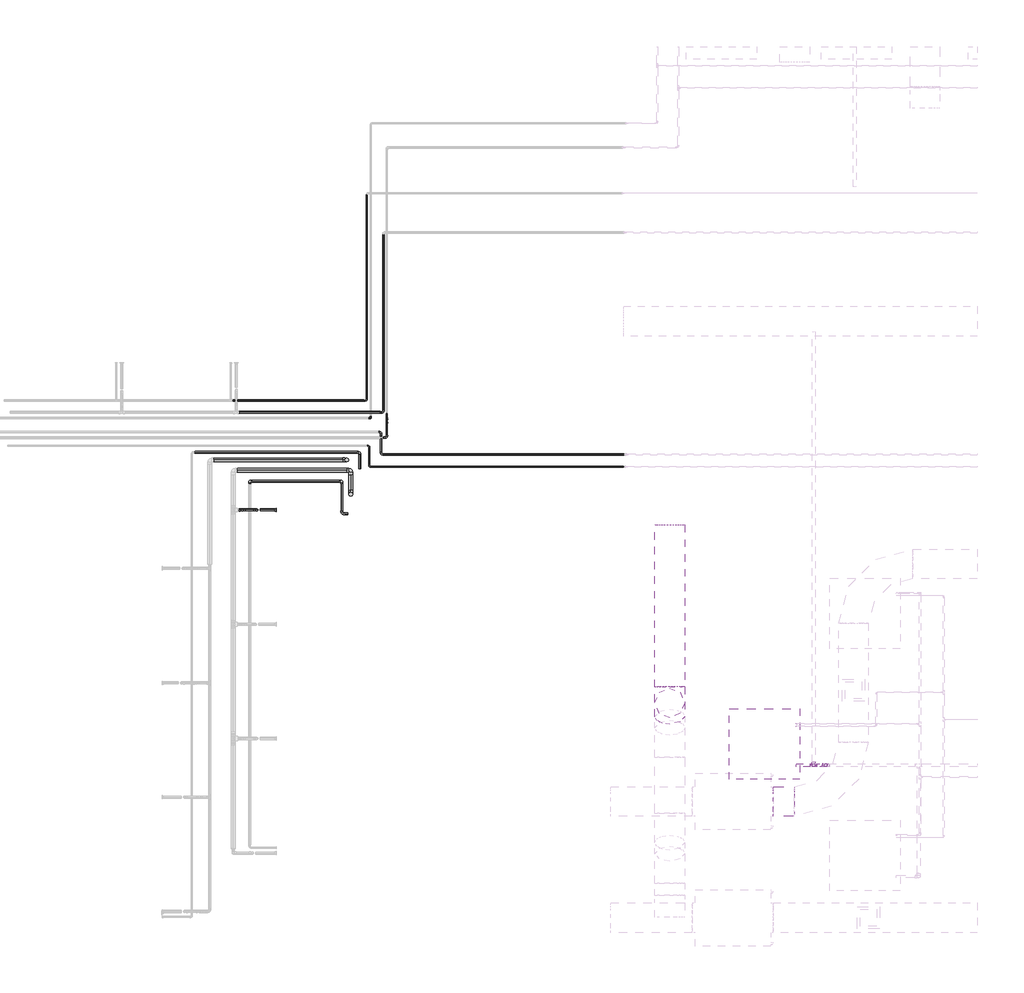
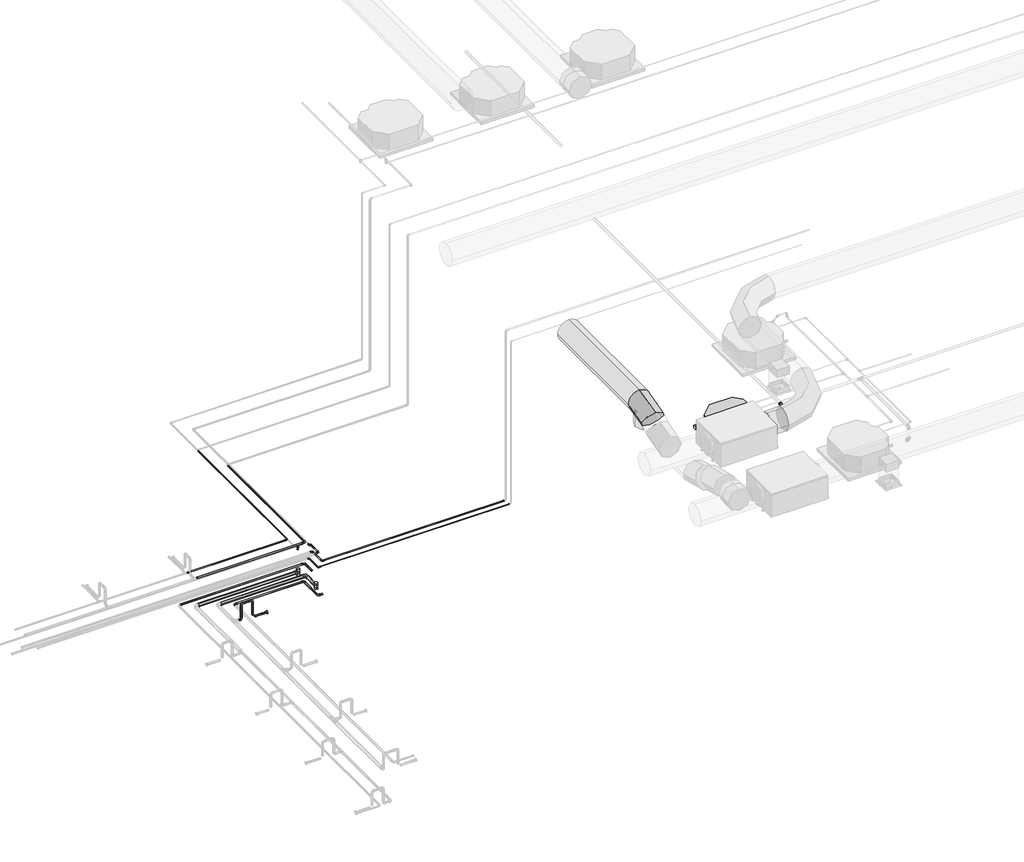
# One storey, part 5 of 22: 33 pipe fittings, 27 pipe segments, 3 duct segments, 1 duct fitting, 1 proxy.
"""IFC4 building model written with IfcOpenShell, lengths in millimetres."""

from ifc_helpers import new_model, si_unit, point, frame, frame_2d, origin, place, context, project, spatial, circle_curve, trimmed, segment, composite_curve, outline, extrude, transform, mapped, element, save
from ifc_brep_helpers import plane_surface, cylinder_surface, advanced_brep
from components import mechanical_equipment_53173f38, duct_fitting_2_d_6dcb9c69, pipe_fitting_144f4440, pipe_fitting_14eb6376, pipe_fitting_bac944c5, pipe_fitting_3f76be59, pipe_fitting_1806753b, pipe_fitting_c294872a, pipe_fitting_fefc82c8, pipe_fitting_c900cfc2, pipe_fitting_16c020f5, pipe_fitting_0e110a5f, pipe_fitting_59d1f3e3, pipe_fitting_3263ca60, pipe_fitting_3e80353c, pipe_fitting_15d42c28, pipe_fitting_48ecef6c, pipe_fitting_cbda5a7c, pipe_fitting_547f58c8, pipe_fitting_d07a409f

model = new_model("IFC4")

# Units and contexts
model_context = context("Model", 3, world=origin())
ifc_project = project(units=[si_unit("LENGTHUNIT", "METRE", prefix="MILLI")], contexts=[model_context])

# Site, building, storey
site = spatial("IfcSite", under=ifc_project)
building = spatial("IfcBuilding", under=site)
storey = spatial("IfcBuildingStorey", under=building, Name="Nível 2", Elevation=3880.0)

# Proxy
placement = place(None, origin())
mechanical_equipment_shape = mechanical_equipment_53173f38(model_context)
element("IfcBuildingElementProxy", 1, Name="Midea_VRF_Indoor_4-way Cassette_MI-90(100,112,140)Q4_DHN1-D (2nd DC) : MI2-140Q4DHN1", ObjectType="Midea_VRF_Indoor_4-way Cassette_MI-90(100,112,140)Q4_DHN1-D (2nd DC) : MI2-140Q4DHN1", at=placement, inside=storey, context=model_context, shape_type="MappedRepresentation", body=[
    mapped(mechanical_equipment_shape, transform((-917.6385447, -6421.7007344, 6879.9924473), x_axis=(1.0, 0.0, 0.0), y_axis=(0.0, 1.0, 0.0), z_axis=(0.0, 0.0, 1.0))),
])

# Duct fitting
duct_fitting_2_d_shape = duct_fitting_2_d_6dcb9c69(model_context)
element("IfcDuctFitting", 2, ObjectType="M_Cotovelo redondo : 2 D", at=placement, inside=storey, context=model_context, shape_type="MappedRepresentation", body=[
    mapped(duct_fitting_2_d_shape, transform((-2195.6317244, -5866.746009, 7501.0), x_axis=(0.0, -1.0, 0.0), y_axis=(0.0, 0.0, -1.0), z_axis=(1.0, 0.0, 0.0))),
])

# Duct segments
element("IfcDuctSegment", 3, ObjectType="Torneiras / Raio curto", at=placement, inside=storey, context=model_context, shape_type="SweptSolid", body=[
    extrude(outline(composite_curve([segment(trimmed(circle_curve(frame_2d((-7194.5831069, 7501.0)), 200.0), [point((-7394.5831069, 7501.0))], [point((-7194.5831069, 7701.0))], False, "CARTESIAN"), True, "CONTINUOUS"), segment(trimmed(circle_curve(frame_2d((-7194.5831069, 7501.0)), 200.0), [point((-7194.5831069, 7701.0))], [point((-6994.5831069, 7501.0))], False, "CARTESIAN"), True, "CONTINUOUS"), segment(trimmed(circle_curve(frame_2d((-7194.5831069, 7501.0)), 200.0), [point((-6994.5831069, 7501.0))], [point((-7194.5831069, 7301.0))], False, "CARTESIAN"), True, "CONTINUOUS"), segment(trimmed(circle_curve(frame_2d((-7194.5831069, 7501.0)), 200.0), [point((-7194.5831069, 7301.0))], [point((-7394.5831069, 7501.0))], False, "CARTESIAN"), True, "CONTINUOUS")], self_intersect=False)), frame((-796.4687297, 0.0, 0.0), z_axis=(1.0, 0.0, 0.0), x_axis=(0.0, 1.0, 0.0)), (0.0, 0.0, 1.0), 280.0),
])
element("IfcDuctSegment", 4, ObjectType="Torneiras / Raio curto", at=placement, inside=storey, context=model_context, shape_type="SweptSolid", body=[
    extrude(outline(composite_curve([segment(trimmed(circle_curve(frame_2d((7501.0, -2195.6317244)), 200.0), [point((7501.0, -2395.6317244))], [point((7301.0, -2195.6317244))], False, "CARTESIAN"), True, "CONTINUOUS"), segment(trimmed(circle_curve(frame_2d((7501.0, -2195.6317244)), 200.0), [point((7301.0, -2195.6317244))], [point((7501.0, -1995.6317244))], False, "CARTESIAN"), True, "CONTINUOUS"), segment(trimmed(circle_curve(frame_2d((7501.0, -2195.6317244)), 200.0), [point((7501.0, -1995.6317244))], [point((7701.0, -2195.6317244))], False, "CARTESIAN"), True, "CONTINUOUS"), segment(trimmed(circle_curve(frame_2d((7501.0, -2195.6317244)), 200.0), [point((7701.0, -2195.6317244))], [point((7501.0, -2395.6317244))], False, "CARTESIAN"), True, "CONTINUOUS")], self_intersect=False)), frame((0.0, -5652.386661, 0.0), z_axis=(0.0, 1.0, 0.0), x_axis=(0.0, 0.0, 1.0)), (0.0, 0.0, 1.0), 2185.640652),
])
element("IfcDuctSegment", 5, ObjectType="Torneiras / Raio curto", at=placement, inside=storey, context=model_context, shape_type="SweptSolid", body=[
    extrude(outline(composite_curve([segment(trimmed(circle_curve(frame_2d((-2195.6317244, -5866.746009)), 200.0), [point((-2395.6317244, -5866.746009))], [point((-2195.6317244, -5666.746009))], False, "CARTESIAN"), True, "CONTINUOUS"), segment(trimmed(circle_curve(frame_2d((-2195.6317244, -5866.746009)), 200.0), [point((-2195.6317244, -5666.746009))], [point((-1995.6317244, -5866.746009))], False, "CARTESIAN"), True, "CONTINUOUS"), segment(trimmed(circle_curve(frame_2d((-2195.6317244, -5866.746009)), 200.0), [point((-1995.6317244, -5866.746009))], [point((-2195.6317244, -6066.746009))], False, "CARTESIAN"), True, "CONTINUOUS"), segment(trimmed(circle_curve(frame_2d((-2195.6317244, -5866.746009)), 200.0), [point((-2195.6317244, -6066.746009))], [point((-2395.6317244, -5866.746009))], False, "CARTESIAN"), True, "CONTINUOUS")], self_intersect=False)), frame((0.0, 0.0, 7201.0), z_axis=(0.0, 0.0, 1.0), x_axis=(1.0, 0.0, 0.0)), (0.0, 0.0, 1.0), 300.0),
])

# Pipe fittings
pipe_fitting_shape = pipe_fitting_144f4440(model_context)
element("IfcPipeFitting", 6, ObjectType="Cotovelo - PVC - CW : Padrão", at=placement, inside=storey, context=model_context, shape_type="MappedRepresentation", body=[
    mapped(pipe_fitting_shape, transform((-92.6385448, -6706.7007344, 7380.0), x_axis=(0.0, 0.0, 1.0), y_axis=(1.0, 0.0, 0.0), z_axis=(0.0, 1.0, 0.0))),
])
element("IfcPipeFitting", 7, ObjectType="Cotovelo - PVC - CW : Padrão", at=placement, inside=storey, context=model_context, shape_type="MappedRepresentation", body=[
    mapped(pipe_fitting_shape, transform((-256.3806039, -6706.7007344, 7380.0), x_axis=(0.0, 0.0, 1.0), y_axis=(0.0, 1.0, 0.0), z_axis=(-1.0, 0.0, 0.0))),
])
pipe_fitting_2_shape = pipe_fitting_14eb6376(model_context)
element("IfcPipeFitting", 8, ObjectType="Tê de redução - PVC - CW : Padrão", at=placement, inside=storey, context=model_context, shape_type="MappedRepresentation", body=[
    mapped(pipe_fitting_2_shape, transform((-256.3806039, -6706.7007344, 7132.3009574), x_axis=(-1.0, 0.0, 0.0), y_axis=(0.0, 0.0, -1.0), z_axis=(0.0, -1.0, 0.0))),
])
pipe_fitting_3_shape = pipe_fitting_bac944c5(model_context)
element("IfcPipeFitting", 9, ObjectType="Cotovelo - PVC - CW : Padrão", at=placement, inside=storey, context=model_context, shape_type="MappedRepresentation", body=[
    mapped(pipe_fitting_3_shape, transform((-92.6385448, -6706.7007344, 7132.3), x_axis=(0.9999999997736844, 0.0, -2.1275133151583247e-05), y_axis=(2.1275133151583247e-05, 0.0, 0.9999999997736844), z_axis=(0.0, -1.0, 0.0))),
])
pipe_fitting_4_shape = pipe_fitting_3f76be59(model_context)
element("IfcPipeFitting", 10, ObjectType="Tê - Soldado - CU : Padrão", at=placement, inside=storey, context=model_context, shape_type="MappedRepresentation", body=[
    mapped(pipe_fitting_4_shape, transform((-6494.2656229, -3054.0130524, 3918.9), x_axis=(0.0, 0.0, 1.0), y_axis=(0.0, -1.0, 0.0), z_axis=(1.0, 0.0, 0.0))),
])
element("IfcPipeFitting", 11, ObjectType="Tê - Soldado - CU : Padrão", at=placement, inside=storey, context=model_context, shape_type="MappedRepresentation", body=[
    mapped(pipe_fitting_4_shape, transform((-6547.9057355, -2591.984439, 3918.9), x_axis=(0.0, 0.0, 1.0), y_axis=(1.0, 0.0, 0.0), z_axis=(0.0, 1.0, 0.0))),
])
pipe_fitting_5_shape = pipe_fitting_1806753b(model_context)
element("IfcPipeFitting", 12, ObjectType="Cotovelo - Soldado - CU : Padrão", at=placement, inside=storey, context=model_context, shape_type="MappedRepresentation", body=[
    mapped(pipe_fitting_5_shape, transform((-7857.0970926, -2877.4373291, 3935.5448465), x_axis=(-1.0, 0.0, 0.0), y_axis=(0.0, -1.0, 0.0), z_axis=(0.0, 0.0, 1.0))),
])
element("IfcPipeFitting", 13, ObjectType="Cotovelo - Soldado - CU : Padrão", at=placement, inside=storey, context=model_context, shape_type="MappedRepresentation", body=[
    mapped(pipe_fitting_5_shape, transform((-6611.9384433, -2877.4373291, 3935.5448465), x_axis=(0.0, 1.0, 0.0), y_axis=(-1.0, 0.0, 0.0), z_axis=(0.0, 0.0, 1.0))),
])
element("IfcPipeFitting", 14, ObjectType="Cotovelo - Soldado - CU : Padrão", at=placement, inside=storey, context=model_context, shape_type="MappedRepresentation", body=[
    mapped(pipe_fitting_5_shape, transform((-6611.9384433, -3316.4384859, 3935.5448465), x_axis=(0.0, -1.0, 0.0), y_axis=(1.0, 0.0, 0.0), z_axis=(0.0, 0.0, 1.0))),
])
element("IfcPipeFitting", 15, ObjectType="Cotovelo - Soldado - CU : Padrão", at=placement, inside=storey, context=model_context, shape_type="MappedRepresentation", body=[
    mapped(pipe_fitting_5_shape, transform((-6372.1718372, -2487.8240222, 3954.6), x_axis=(0.0, 1.0, 0.0), y_axis=(-1.0, 0.0, 0.0), z_axis=(0.0, 0.0, 1.0))),
])
pipe_fitting_6_shape = pipe_fitting_c294872a(model_context)
element("IfcPipeFitting", 16, ObjectType="Cotovelo - Soldado - CU : Padrão", at=placement, inside=storey, context=model_context, shape_type="MappedRepresentation", body=[
    mapped(pipe_fitting_6_shape, transform((-6494.2656229, -2732.6373291, 3918.9), x_axis=(0.0, 1.0, 0.0), y_axis=(-1.0, 0.0, 0.0), z_axis=(0.0, 0.0, 1.0))),
])
pipe_fitting_7_shape = pipe_fitting_fefc82c8(model_context)
element("IfcPipeFitting", 17, ObjectType="Cotovelo - Soldado - CU : Padrão", at=placement, inside=storey, context=model_context, shape_type="MappedRepresentation", body=[
    mapped(pipe_fitting_7_shape, transform((-7757.0970933, -3266.4373291, 4218.9), x_axis=(0.0, 0.0, 1.0), y_axis=(-1.0, 0.0, 0.0), z_axis=(0.0, -1.0, 0.0))),
])
element("IfcPipeFitting", 18, ObjectType="Cotovelo - Soldado - CU : Padrão", at=placement, inside=storey, context=model_context, shape_type="MappedRepresentation", body=[
    mapped(pipe_fitting_7_shape, transform((-7957.0970933, -3266.4373291, 4218.9), x_axis=(-1.0, 0.0, 0.0), y_axis=(0.0, 0.0, -1.0), z_axis=(0.0, -1.0, 0.0))),
])
element("IfcPipeFitting", 19, ObjectType="Cotovelo - Soldado - CU : Padrão", at=placement, inside=storey, context=model_context, shape_type="MappedRepresentation", body=[
    mapped(pipe_fitting_7_shape, transform((-7957.0970933, -3266.4373291, 3918.9), x_axis=(0.0, 0.0, -1.0), y_axis=(-1.0, 0.0, 0.0), z_axis=(0.0, 1.0, 0.0))),
])
pipe_fitting_8_shape = pipe_fitting_c900cfc2(model_context)
element("IfcPipeFitting", 20, ObjectType="Bucha de redução reta - Soldada - CU : Padrão", at=placement, inside=storey, context=model_context, shape_type="MappedRepresentation", body=[
    mapped(pipe_fitting_8_shape, transform((-492.6385447, -6148.4899207, 7132.3009574), x_axis=(1.0, 0.0, 0.0), y_axis=(0.0, 1.0, 0.0), z_axis=(0.0, 0.0, 1.0))),
])
pipe_fitting_9_shape = pipe_fitting_16c020f5(model_context)
element("IfcPipeFitting", 21, ObjectType="Cotovelo - Soldado - CU : Padrão", at=placement, inside=storey, context=model_context, shape_type="MappedRepresentation", body=[
    mapped(pipe_fitting_9_shape, transform((-6243.5282239, -2402.3118218, 3954.6), x_axis=(0.0, 1.0, 0.0), y_axis=(-1.0, 0.0, 0.0), z_axis=(0.0, 0.0, 1.0))),
])
element("IfcPipeFitting", 22, ObjectType="Cotovelo - Soldado - CU : Padrão", at=placement, inside=storey, context=model_context, shape_type="MappedRepresentation", body=[
    mapped(pipe_fitting_9_shape, transform((-6243.5282239, -2684.7491488, 3954.6), x_axis=(0.0, -1.0, 0.0), y_axis=(1.0, 0.0, 0.0), z_axis=(0.0, 0.0, 1.0))),
])
element("IfcPipeFitting", 23, ObjectType="Cotovelo - Soldado - CU : Padrão", at=placement, inside=storey, context=model_context, shape_type="MappedRepresentation", body=[
    mapped(pipe_fitting_9_shape, transform((-6224.6914695, -2026.9118218, 3954.6), x_axis=(0.0, 0.0, 1.0), y_axis=(-1.0, 0.0, 0.0), z_axis=(0.0, -1.0, 0.0))),
])
pipe_fitting_10_shape = pipe_fitting_0e110a5f(model_context)
element("IfcPipeFitting", 24, ObjectType="Cotovelo - Soldado - CU : Padrão", at=placement, inside=storey, context=model_context, shape_type="MappedRepresentation", body=[
    mapped(pipe_fitting_10_shape, transform((-6083.851436, -2518.4426922, 3918.9), x_axis=(0.0, -1.0, 0.0), y_axis=(1.0, 0.0, 0.0), z_axis=(0.0, 0.0, 1.0))),
])
element("IfcPipeFitting", 25, ObjectType="Cotovelo - Soldado - CU : Padrão", at=placement, inside=storey, context=model_context, shape_type="MappedRepresentation", body=[
    mapped(pipe_fitting_10_shape, transform((-6083.851436, -2218.4426922, 3918.9), x_axis=(0.0, 1.0, 0.0), y_axis=(-1.0, 0.0, 0.0), z_axis=(0.0, 0.0, 1.0))),
])
element("IfcPipeFitting", 26, ObjectType="Cotovelo - Soldado - CU : Padrão", at=placement, inside=storey, context=model_context, shape_type="MappedRepresentation", body=[
    mapped(pipe_fitting_10_shape, transform((-6053.8891409, -1952.2521784, 3918.9), x_axis=(1.0, 0.0, 0.0), y_axis=(0.0, 1.0, 0.0), z_axis=(0.0, 0.0, 1.0))),
])
element("IfcPipeFitting", 27, ObjectType="Cotovelo - Soldado - CU : Padrão", at=placement, inside=storey, context=model_context, shape_type="MappedRepresentation", body=[
    mapped(pipe_fitting_10_shape, transform((-6008.3914151, -2291.9118218, 3918.9), x_axis=(1.0, 0.0, 0.0), y_axis=(0.0, 1.0, 0.0), z_axis=(0.0, 0.0, 1.0))),
])
pipe_fitting_11_shape = pipe_fitting_59d1f3e3(model_context)
element("IfcPipeFitting", 28, ObjectType="Bucha de redução reta - Soldada - CU : Padrão", at=placement, inside=storey, context=model_context, shape_type="MappedRepresentation", body=[
    mapped(pipe_fitting_11_shape, transform((-492.6385447, -6182.2923626, 7026.8370961), x_axis=(1.0, 0.0, 0.0), y_axis=(0.0, 1.0, 0.0), z_axis=(0.0, 0.0, 1.0))),
])
pipe_fitting_12_shape = pipe_fitting_3263ca60(model_context)
element("IfcPipeFitting", 29, ObjectType="Bucha de redução reta - Soldada - CU : Padrão", at=placement, inside=storey, context=model_context, shape_type="MappedRepresentation", body=[
    mapped(pipe_fitting_12_shape, transform((-7497.0970939, -3266.4373291, 3899.7972653), x_axis=(-1.0, 0.0, 0.0), y_axis=(0.0, -1.0, 0.0), z_axis=(0.0, 0.0, 1.0))),
])
pipe_fitting_13_shape = pipe_fitting_3e80353c(model_context)
element("IfcPipeFitting", 30, ObjectType="Cotovelo - Soldado - CU : Padrão", at=placement, inside=storey, context=model_context, shape_type="MappedRepresentation", body=[
    mapped(pipe_fitting_13_shape, transform((-6278.8891408, -1792.2521775, 3954.6), x_axis=(1.0, 0.0, 0.0), y_axis=(0.0, 1.0, 0.0), z_axis=(0.0, 0.0, 1.0))),
])
element("IfcPipeFitting", 31, ObjectType="Cotovelo - Soldado - CU : Padrão", at=placement, inside=storey, context=model_context, shape_type="MappedRepresentation", body=[
    mapped(pipe_fitting_13_shape, transform((-6224.6914695, -2026.9118218, 3880.0), x_axis=(0.0, -1.0, 0.0), y_axis=(0.0, 0.0, 1.0), z_axis=(-1.0, 0.0, 0.0))),
])
pipe_fitting_14_shape = pipe_fitting_15d42c28(model_context)
element("IfcPipeFitting", 32, ObjectType="Bucha de redução reta - Soldada - CU : Padrão", at=placement, inside=storey, context=model_context, shape_type="MappedRepresentation", body=[
    mapped(pipe_fitting_14_shape, transform((-6305.3951408, -1792.2521775, 3954.6), x_axis=(-1.0, 0.0, 0.0), y_axis=(0.0, -1.0, 0.0), z_axis=(0.0, 0.0, 1.0))),
])
element("IfcPipeFitting", 33, ObjectType="Bucha de redução reta - Soldada - CU : Padrão", at=placement, inside=storey, context=model_context, shape_type="MappedRepresentation", body=[
    mapped(pipe_fitting_14_shape, transform((-6224.6914695, -2026.9118218, 3906.506), x_axis=(0.0, 0.0, 1.0), y_axis=(0.0, -1.0, 0.0), z_axis=(1.0, 0.0, 0.0))),
])
pipe_fitting_15_shape = pipe_fitting_48ecef6c(model_context)
element("IfcPipeFitting", 34, ObjectType="Bucha de redução reta - Soldada - CU : Padrão", at=placement, inside=storey, context=model_context, shape_type="MappedRepresentation", body=[
    mapped(pipe_fitting_15_shape, transform((-6085.3481409, -1952.2521784, 3918.9), x_axis=(-1.0, 0.0, 0.0), y_axis=(0.0, -1.0, 0.0), z_axis=(0.0, 0.0, 1.0))),
])
pipe_fitting_16_shape = pipe_fitting_cbda5a7c(model_context)
element("IfcPipeFitting", 35, ObjectType="Bucha de redução reta - Soldada - CU : Padrão", at=placement, inside=storey, context=model_context, shape_type="MappedRepresentation", body=[
    mapped(pipe_fitting_16_shape, transform((-6214.5496239, -2684.7491488, 3954.6), x_axis=(1.0, 0.0, 0.0), y_axis=(0.0, 1.0, 0.0), z_axis=(0.0, 0.0, 1.0))),
])
pipe_fitting_17_shape = pipe_fitting_547f58c8(model_context)
element("IfcPipeFitting", 36, ObjectType="Bucha de redução reta - Soldada - CU : Padrão", at=placement, inside=storey, context=model_context, shape_type="MappedRepresentation", body=[
    mapped(pipe_fitting_17_shape, transform((-6054.0039151, -2291.9118218, 3918.9), x_axis=(1.0, 0.0, 0.0), y_axis=(0.0, 1.0, 0.0), z_axis=(0.0, 0.0, 1.0))),
])
pipe_fitting_18_shape = pipe_fitting_d07a409f(model_context)
element("IfcPipeFitting", 37, ObjectType="Cotovelo - Soldado - CU : Padrão", at=placement, inside=storey, context=model_context, shape_type="MappedRepresentation", body=[
    mapped(pipe_fitting_18_shape, transform((-6008.3914151, -2065.1838057, 3918.9), x_axis=(0.0, 1.0, 0.0), y_axis=(0.0, 0.0, -1.0), z_axis=(-1.0, 0.0, 0.0))),
])
element("IfcPipeFitting", 38, ObjectType="Cotovelo - Soldado - CU : Padrão", at=placement, inside=storey, context=model_context, shape_type="MappedRepresentation", body=[
    mapped(pipe_fitting_18_shape, transform((-6008.3914151, -1997.8070293, 3880.0), x_axis=(0.0, 0.8660254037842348, -0.5000000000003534), y_axis=(0.0, 0.5000000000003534, 0.8660254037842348), z_axis=(1.0, 0.0, 0.0))),
])

# Pipe segments
element("IfcPipeSegment", 39, ObjectType="Tubos de cobre HVAC", at=placement, inside=storey, context=model_context, shape_type="SweptSolid", body=[
    extrude(outline(composite_curve([segment(trimmed(circle_curve(frame_2d((-2591.984439, 3918.9)), 25.4), [point((-2617.384439, 3918.9))], [point((-2591.984439, 3944.3))], False, "CARTESIAN"), True, "CONTINUOUS"), segment(trimmed(circle_curve(frame_2d((-2591.984439, 3918.9)), 25.4), [point((-2591.984439, 3944.3))], [point((-2566.584439, 3918.9))], False, "CARTESIAN"), True, "CONTINUOUS"), segment(trimmed(circle_curve(frame_2d((-2591.984439, 3918.9)), 25.4), [point((-2566.584439, 3918.9))], [point((-2591.984439, 3893.5))], False, "CARTESIAN"), True, "CONTINUOUS"), segment(trimmed(circle_curve(frame_2d((-2591.984439, 3918.9)), 25.4), [point((-2591.984439, 3893.5))], [point((-2617.384439, 3918.9))], False, "CARTESIAN"), True, "CONTINUOUS")], self_intersect=False)), frame((-8339.3686914, 0.0, 0.0), z_axis=(1.0, 0.0, 0.0), x_axis=(0.0, 1.0, 0.0)), (0.0, 0.0, 1.0), 1735.5849559),
])
element("IfcPipeSegment", 40, ObjectType="Tubos de cobre HVAC", at=placement, inside=storey, context=model_context, shape_type="SweptSolid", body=[
    extrude(outline(composite_curve([segment(trimmed(circle_curve(frame_2d((-2487.8240222, 3954.6)), 12.7), [point((-2500.5240222, 3954.6))], [point((-2487.8240222, 3967.3))], False, "CARTESIAN"), True, "CONTINUOUS"), segment(trimmed(circle_curve(frame_2d((-2487.8240222, 3954.6)), 12.7), [point((-2487.8240222, 3967.3))], [point((-2475.1240222, 3954.6))], False, "CARTESIAN"), True, "CONTINUOUS"), segment(trimmed(circle_curve(frame_2d((-2487.8240222, 3954.6)), 12.7), [point((-2475.1240222, 3954.6))], [point((-2487.8240222, 3941.9))], False, "CARTESIAN"), True, "CONTINUOUS"), segment(trimmed(circle_curve(frame_2d((-2487.8240222, 3954.6)), 12.7), [point((-2487.8240222, 3941.9))], [point((-2500.5240222, 3954.6))], False, "CARTESIAN"), True, "CONTINUOUS")], self_intersect=False)), frame((-8593.3551925, 0.0, 0.0), z_axis=(1.0, 0.0, 0.0), x_axis=(0.0, 1.0, 0.0)), (0.0, 0.0, 1.0), 2184.7713554),
])
element("IfcPipeSegment", 41, ObjectType="Tubos de cobre HVAC", at=placement, inside=storey, context=model_context, shape_type="SweptSolid", body=[
    extrude(outline(composite_curve([segment(trimmed(circle_curve(frame_2d((0.0, 13.9999999)), 14.0), [point((-14.0, 13.9999999))], [point((0.0, 28.0))], False, "CARTESIAN"), True, "CONTINUOUS"), segment(trimmed(circle_curve(frame_2d((0.0, 13.9999999)), 14.0), [point((0.0, 28.0))], [point((14.0, 13.9999999))], False, "CARTESIAN"), True, "CONTINUOUS"), segment(trimmed(circle_curve(frame_2d((0.0, 13.9999999)), 14.0), [point((14.0, 13.9999999))], [point((0.0, 0.0))], False, "CARTESIAN"), True, "CONTINUOUS"), segment(trimmed(circle_curve(frame_2d((0.0, 13.9999999)), 14.0), [point((0.0, 0.0))], [point((-14.0, 13.9999999))], False, "CARTESIAN"), True, "CONTINUOUS")], self_intersect=False)), frame((-7516.498122, -3266.4373291, 3885.7972654), z_axis=(-0.9999999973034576, 0.0, 7.343762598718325e-05), x_axis=(0.0, -1.0, 0.0)), (0.0, 0.0, 1.0), 198.4014016),
])
element("IfcPipeSegment", 42, ObjectType="Tubos de cobre HVAC", at=placement, inside=storey, context=model_context, shape_type="SweptSolid", body=[
    extrude(outline(composite_curve([segment(trimmed(circle_curve(frame_2d((0.0, -14.0)), 14.0), [point((-14.0, -14.0))], [point((0.0, 0.0))], False, "CARTESIAN"), True, "CONTINUOUS"), segment(trimmed(circle_curve(frame_2d((0.0, -14.0)), 14.0), [point((0.0, 0.0))], [point((14.0, -14.0))], False, "CARTESIAN"), True, "CONTINUOUS"), segment(trimmed(circle_curve(frame_2d((0.0, -14.0)), 14.0), [point((14.0, -14.0))], [point((0.0, -28.0))], False, "CARTESIAN"), True, "CONTINUOUS"), segment(trimmed(circle_curve(frame_2d((0.0, -14.0)), 14.0), [point((0.0, -28.0))], [point((-14.0, -14.0))], False, "CARTESIAN"), True, "CONTINUOUS")], self_intersect=False)), frame((-7757.0984948, -3280.4373291, 3942.0149346), z_axis=(5.972096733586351e-06, 0.0, 0.999999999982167), x_axis=(-0.999999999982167, 0.0, 5.972096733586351e-06)), (0.0, 0.0, 1.0), 234.6850654),
])
element("IfcPipeSegment", 43, ObjectType="Tubos de cobre HVAC", at=placement, inside=storey, context=model_context, shape_type="SweptSolid", body=[
    extrude(outline(composite_curve([segment(trimmed(circle_curve(frame_2d((-3266.4373291, 4218.9)), 14.0), [point((-3252.4373291, 4218.9))], [point((-3266.4373291, 4204.9))], False, "CARTESIAN"), True, "CONTINUOUS"), segment(trimmed(circle_curve(frame_2d((-3266.4373291, 4218.9)), 14.0), [point((-3266.4373291, 4204.9))], [point((-3280.4373291, 4218.9))], False, "CARTESIAN"), True, "CONTINUOUS"), segment(trimmed(circle_curve(frame_2d((-3266.4373291, 4218.9)), 14.0), [point((-3280.4373291, 4218.9))], [point((-3266.4373291, 4232.9))], False, "CARTESIAN"), True, "CONTINUOUS"), segment(trimmed(circle_curve(frame_2d((-3266.4373291, 4218.9)), 14.0), [point((-3266.4373291, 4232.9))], [point((-3252.4373291, 4218.9))], False, "CARTESIAN"), True, "CONTINUOUS")], self_intersect=False)), frame((-7914.8970933, 0.0, 0.0), z_axis=(1.0, 0.0, 0.0), x_axis=(0.0, 1.0, 0.0)), (0.0, 0.0, 1.0), 115.6),
])
element("IfcPipeSegment", 44, ObjectType="Tubos de cobre HVAC", at=placement, inside=storey, context=model_context, shape_type="SweptSolid", body=[
    extrude(outline(composite_curve([segment(trimmed(circle_curve(frame_2d((-7957.0970933, -3266.4373291)), 14.0), [point((-7971.0970933, -3266.4373291))], [point((-7957.0970933, -3252.4373291))], False, "CARTESIAN"), True, "CONTINUOUS"), segment(trimmed(circle_curve(frame_2d((-7957.0970933, -3266.4373291)), 14.0), [point((-7957.0970933, -3252.4373291))], [point((-7943.0970933, -3266.4373291))], False, "CARTESIAN"), True, "CONTINUOUS"), segment(trimmed(circle_curve(frame_2d((-7957.0970933, -3266.4373291)), 14.0), [point((-7943.0970933, -3266.4373291))], [point((-7957.0970933, -3280.4373291))], False, "CARTESIAN"), True, "CONTINUOUS"), segment(trimmed(circle_curve(frame_2d((-7957.0970933, -3266.4373291)), 14.0), [point((-7957.0970933, -3280.4373291))], [point((-7971.0970933, -3266.4373291))], False, "CARTESIAN"), True, "CONTINUOUS")], self_intersect=False)), frame((0.0, 0.0, 3961.1), z_axis=(0.0, 0.0, 1.0), x_axis=(1.0, 0.0, 0.0)), (0.0, 0.0, 1.0), 215.6),
])
element("IfcPipeSegment", 45, ObjectType="Tubos de cobre HVAC", at=placement, inside=storey, context=model_context, shape_type="SweptSolid", body=[
    extrude(outline(composite_curve([segment(trimmed(circle_curve(frame_2d((-2877.4373291, 3935.5448465)), 12.7), [point((-2890.1373291, 3935.5448465))], [point((-2877.4373291, 3948.2448465))], False, "CARTESIAN"), True, "CONTINUOUS"), segment(trimmed(circle_curve(frame_2d((-2877.4373291, 3935.5448465)), 12.7), [point((-2877.4373291, 3948.2448465))], [point((-2864.7373291, 3935.5448465))], False, "CARTESIAN"), True, "CONTINUOUS"), segment(trimmed(circle_curve(frame_2d((-2877.4373291, 3935.5448465)), 12.7), [point((-2864.7373291, 3935.5448465))], [point((-2877.4373291, 3922.8448465))], False, "CARTESIAN"), True, "CONTINUOUS"), segment(trimmed(circle_curve(frame_2d((-2877.4373291, 3935.5448465)), 12.7), [point((-2877.4373291, 3922.8448465))], [point((-2890.1373291, 3935.5448465))], False, "CARTESIAN"), True, "CONTINUOUS")], self_intersect=False)), frame((-7820.6850926, 0.0, 0.0), z_axis=(1.0, 0.0, 0.0), x_axis=(0.0, 1.0, 0.0)), (0.0, 0.0, 1.0), 1172.3346492),
])
element("IfcPipeSegment", 46, ObjectType="Tubos de cobre HVAC", at=placement, inside=storey, context=model_context, shape_type="SweptSolid", body=[
    extrude(outline(composite_curve([segment(trimmed(circle_curve(frame_2d((3935.5448465, -6611.9384433)), 12.7), [point((3935.5448465, -6624.6384433))], [point((3922.8448465, -6611.9384433))], False, "CARTESIAN"), True, "CONTINUOUS"), segment(trimmed(circle_curve(frame_2d((3935.5448465, -6611.9384433)), 12.7), [point((3922.8448465, -6611.9384433))], [point((3935.5448465, -6599.2384433))], False, "CARTESIAN"), True, "CONTINUOUS"), segment(trimmed(circle_curve(frame_2d((3935.5448465, -6611.9384433)), 12.7), [point((3935.5448465, -6599.2384433))], [point((3948.2448465, -6611.9384433))], False, "CARTESIAN"), True, "CONTINUOUS"), segment(trimmed(circle_curve(frame_2d((3935.5448465, -6611.9384433)), 12.7), [point((3948.2448465, -6611.9384433))], [point((3935.5448465, -6624.6384433))], False, "CARTESIAN"), True, "CONTINUOUS")], self_intersect=False)), frame((0.0, -3280.0264859, 0.0), z_axis=(0.0, 1.0, 0.0), x_axis=(0.0, 0.0, 1.0)), (0.0, 0.0, 1.0), 366.1771568),
])
element("IfcPipeSegment", 47, ObjectType="Tubos de cobre HVAC", at=placement, inside=storey, context=model_context, shape_type="SweptSolid", body=[
    extrude(outline(composite_curve([segment(trimmed(circle_curve(frame_2d((-2518.4426922, 3918.9)), 9.525), [point((-2508.9176922, 3918.9))], [point((-2518.4426922, 3909.375))], False, "CARTESIAN"), True, "CONTINUOUS"), segment(trimmed(circle_curve(frame_2d((-2518.4426922, 3918.9)), 9.525), [point((-2518.4426922, 3909.375))], [point((-2527.9676922, 3918.9))], False, "CARTESIAN"), True, "CONTINUOUS"), segment(trimmed(circle_curve(frame_2d((-2518.4426922, 3918.9)), 9.525), [point((-2527.9676922, 3918.9))], [point((-2518.4426922, 3928.425))], False, "CARTESIAN"), True, "CONTINUOUS"), segment(trimmed(circle_curve(frame_2d((-2518.4426922, 3918.9)), 9.525), [point((-2518.4426922, 3928.425))], [point((-2508.9176922, 3918.9))], False, "CARTESIAN"), True, "CONTINUOUS")], self_intersect=False)), frame((-6052.392436, 0.0, 0.0), z_axis=(1.0, 0.0, 0.0), x_axis=(0.0, 1.0, 0.0)), (0.0, 0.0, 1.0), 3237.082),
])
element("IfcPipeSegment", 48, ObjectType="Tubos de cobre HVAC", at=placement, inside=storey, context=model_context, shape_type="SweptSolid", body=[
    extrude(outline(composite_curve([segment(trimmed(circle_curve(frame_2d((3918.9, -6083.851436)), 9.525), [point((3918.9, -6074.326436))], [point((3928.425, -6083.851436))], False, "CARTESIAN"), True, "CONTINUOUS"), segment(trimmed(circle_curve(frame_2d((3918.9, -6083.851436)), 9.525), [point((3928.425, -6083.851436))], [point((3918.9, -6093.376436))], False, "CARTESIAN"), True, "CONTINUOUS"), segment(trimmed(circle_curve(frame_2d((3918.9, -6083.851436)), 9.525), [point((3918.9, -6093.376436))], [point((3909.375, -6083.851436))], False, "CARTESIAN"), True, "CONTINUOUS"), segment(trimmed(circle_curve(frame_2d((3918.9, -6083.851436)), 9.525), [point((3909.375, -6083.851436))], [point((3918.9, -6074.326436))], False, "CARTESIAN"), True, "CONTINUOUS")], self_intersect=False)), frame((0.0, -2486.9836922, 0.0), z_axis=(0.0, 1.0, 0.0), x_axis=(0.0, 0.0, 1.0)), (0.0, 0.0, 1.0), 237.082),
])
element("IfcPipeSegment", 49, ObjectType="Tubos de cobre HVAC", at=placement, inside=storey, context=model_context, shape_type="SweptSolid", body=[
    extrude(outline(composite_curve([segment(trimmed(circle_curve(frame_2d((3954.6, -6243.5282239)), 7.935), [point((3954.6, -6251.4632239))], [point((3946.665, -6243.5282239))], False, "CARTESIAN"), True, "CONTINUOUS"), segment(trimmed(circle_curve(frame_2d((3954.6, -6243.5282239)), 7.935), [point((3946.665, -6243.5282239))], [point((3954.6, -6235.5932239))], False, "CARTESIAN"), True, "CONTINUOUS"), segment(trimmed(circle_curve(frame_2d((3954.6, -6243.5282239)), 7.935), [point((3954.6, -6235.5932239))], [point((3962.535, -6243.5282239))], False, "CARTESIAN"), True, "CONTINUOUS"), segment(trimmed(circle_curve(frame_2d((3954.6, -6243.5282239)), 7.935), [point((3962.535, -6243.5282239))], [point((3954.6, -6251.4632239))], False, "CARTESIAN"), True, "CONTINUOUS")], self_intersect=False)), frame((0.0, -2655.7705488, 0.0), z_axis=(0.0, 1.0, 0.0), x_axis=(0.0, 0.0, 1.0)), (0.0, 0.0, 1.0), 224.480127),
])
element("IfcPipeSegment", 50, ObjectType="Tubos de cobre HVAC", at=placement, inside=storey, context=model_context, shape_type="SweptSolid", body=[
    extrude(outline(composite_curve([segment(trimmed(circle_curve(frame_2d((-2684.7491488, 3954.6)), 4.76), [point((-2679.9891488, 3954.6))], [point((-2684.7491488, 3949.84))], False, "CARTESIAN"), True, "CONTINUOUS"), segment(trimmed(circle_curve(frame_2d((-2684.7491488, 3954.6)), 4.76), [point((-2684.7491488, 3949.84))], [point((-2689.5091488, 3954.6))], False, "CARTESIAN"), True, "CONTINUOUS"), segment(trimmed(circle_curve(frame_2d((-2684.7491488, 3954.6)), 4.76), [point((-2689.5091488, 3954.6))], [point((-2684.7491488, 3959.36))], False, "CARTESIAN"), True, "CONTINUOUS"), segment(trimmed(circle_curve(frame_2d((-2684.7491488, 3954.6)), 4.76), [point((-2684.7491488, 3959.36))], [point((-2679.9891488, 3954.6))], False, "CARTESIAN"), True, "CONTINUOUS")], self_intersect=False)), frame((-6204.8752239, 0.0, 0.0), z_axis=(1.0, 0.0, 0.0), x_axis=(0.0, 1.0, 0.0)), (0.0, 0.0, 1.0), 3392.2809937),
])
element("IfcPipeSegment", 51, ObjectType="Tubos de cobre HVAC", at=placement, inside=storey, context=model_context, shape_type="SweptSolid", body=[
    extrude(outline(composite_curve([segment(trimmed(circle_curve(frame_2d((-1952.2521784, 3918.9)), 14.0), [point((-1966.2521784, 3918.9))], [point((-1952.2521784, 3932.9))], False, "CARTESIAN"), True, "CONTINUOUS"), segment(trimmed(circle_curve(frame_2d((-1952.2521784, 3918.9)), 14.0), [point((-1952.2521784, 3932.9))], [point((-1938.2521784, 3918.9))], False, "CARTESIAN"), True, "CONTINUOUS"), segment(trimmed(circle_curve(frame_2d((-1952.2521784, 3918.9)), 14.0), [point((-1938.2521784, 3918.9))], [point((-1952.2521784, 3904.9))], False, "CARTESIAN"), True, "CONTINUOUS"), segment(trimmed(circle_curve(frame_2d((-1952.2521784, 3918.9)), 14.0), [point((-1952.2521784, 3904.9))], [point((-1966.2521784, 3918.9))], False, "CARTESIAN"), True, "CONTINUOUS")], self_intersect=False)), frame((-7998.0372756, 0.0, 0.0), z_axis=(1.0, 0.0, 0.0), x_axis=(0.0, 1.0, 0.0)), (0.0, 0.0, 1.0), 1898.5356348),
])
element("IfcPipeSegment", 52, ObjectType="Tubos de cobre HVAC", at=placement, inside=storey, context=model_context, shape_type="AdvancedBrep", body=[
    advanced_brep(
    [(-8081.4019257, -1800.1871763, 3954.5864724), (-8081.4019865, -1792.2521763, 3962.5214724), (-8081.4019256, -1784.3171763, 3954.5864724), (-8081.4018648, -1792.2521763, 3946.6514724), (-6316.5641408, -1800.1871775, 3954.6), (-6316.56408, -1792.2521775, 3946.665), (-6316.5641408, -1784.3171775, 3954.6), (-6316.5642017, -1792.2521775, 3962.535)],
    [
        (0, 1, circle_curve(frame((-8081.4019257, -1792.2521763, 3954.5864724), z_axis=(-0.9999999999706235, 0.0, -7.665057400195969e-06), x_axis=(0.0, -1.0, 0.0)), 7.935)),
        (1, 2, circle_curve(frame((-8081.4019256, -1792.2521763, 3954.5864724), z_axis=(-0.9999999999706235, 0.0, -7.665057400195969e-06), x_axis=(0.0, -1.0, 0.0)), 7.935)),
        (2, 3, circle_curve(frame((-8081.4019256, -1792.2521763, 3954.5864724), z_axis=(-0.9999999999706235, 0.0, -7.665057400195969e-06), x_axis=(0.0, -1.0, 0.0)), 7.935)),
        (3, 0, circle_curve(frame((-8081.4019256, -1792.2521763, 3954.5864724), z_axis=(-0.9999999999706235, 0.0, -7.665057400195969e-06), x_axis=(0.0, -1.0, 0.0)), 7.935)),
        (4, 5, circle_curve(frame((-6316.5641408, -1792.2521763, 3954.6), z_axis=(0.9999999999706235, 0.0, 7.665057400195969e-06), x_axis=(0.0, -1.0, 0.0)), 7.9350012)),
        (5, 6, circle_curve(frame((-6316.5641408, -1792.2521763, 3954.6), z_axis=(0.9999999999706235, 0.0, 7.665057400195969e-06), x_axis=(0.0, -1.0, 0.0)), 7.935)),
        (6, 7, circle_curve(frame((-6316.5641408, -1792.2521763, 3954.6), z_axis=(0.9999999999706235, 0.0, 7.665057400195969e-06), x_axis=(0.0, -1.0, 0.0)), 7.9349988)),
        (7, 4, circle_curve(frame((-6316.5641408, -1792.2521763, 3954.6), z_axis=(0.9999999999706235, 0.0, 7.665057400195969e-06), x_axis=(0.0, -1.0, 0.0)), 7.935)),
        (0, 4),
        (7, 1),
        (6, 2),
        (5, 3),
    ],
    [
        plane_surface(frame((-8081.4018648, -1792.2521763, 3946.6514724), z_axis=(-0.9999999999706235, 6.895710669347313e-10, -7.665057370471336e-06), x_axis=(6.895710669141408e-10, 1.0, 0.0))),
        plane_surface(frame((-6316.56408, -1792.2521775, 3946.665), z_axis=(0.9999999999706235, -6.895710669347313e-10, 7.665057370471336e-06), x_axis=(6.895710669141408e-10, 1.0, 0.0))),
        cylinder_surface(frame((-8081.4019256, -1792.2521763, 3954.5864724), z_axis=(-0.9999999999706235, 0.0, -7.665057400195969e-06), x_axis=(0.0, -1.0, 0.0)), 7.935),
    ],
    [
        (0, [[1, 2, 3, 4]]),
        (1, [[5, 6, 7, 8]]),
        (2, [[-1, 9, -8, 10]]),
        (2, [[-2, -10, -7, 11]]),
        (2, [[-3, -11, -6, 12]]),
        (2, [[-4, -12, -5, -9]]),
    ],
),
])
element("IfcPipeSegment", 53, ObjectType="Tubos de cobre HVAC", at=placement, inside=storey, context=model_context, shape_type="SweptSolid", body=[
    extrude(outline(composite_curve([segment(trimmed(circle_curve(frame_2d((3918.9, -6053.8891409)), 9.525), [point((3918.9, -6063.4141409))], [point((3909.375, -6053.8891409))], False, "CARTESIAN"), True, "CONTINUOUS"), segment(trimmed(circle_curve(frame_2d((3918.9, -6053.8891409)), 9.525), [point((3909.375, -6053.8891409))], [point((3918.9, -6044.3641409))], False, "CARTESIAN"), True, "CONTINUOUS"), segment(trimmed(circle_curve(frame_2d((3918.9, -6053.8891409)), 9.525), [point((3918.9, -6044.3641409))], [point((3928.425, -6053.8891409))], False, "CARTESIAN"), True, "CONTINUOUS"), segment(trimmed(circle_curve(frame_2d((3918.9, -6053.8891409)), 9.525), [point((3928.425, -6053.8891409))], [point((3918.9, -6063.4141409))], False, "CARTESIAN"), True, "CONTINUOUS")], self_intersect=False)), frame((0.0, -1920.7931784, 0.0), z_axis=(0.0, 1.0, 0.0), x_axis=(0.0, 0.0, 1.0)), (0.0, 0.0, 1.0), 2362.7928017),
])
element("IfcPipeSegment", 54, ObjectType="Tubos de cobre HVAC", at=placement, inside=storey, context=model_context, shape_type="SweptSolid", body=[
    extrude(outline(composite_curve([segment(trimmed(circle_curve(frame_2d((3954.6, -6278.8891408)), 6.35), [point((3954.6, -6285.2391408))], [point((3948.25, -6278.8891408))], False, "CARTESIAN"), True, "CONTINUOUS"), segment(trimmed(circle_curve(frame_2d((3954.6, -6278.8891408)), 6.35), [point((3948.25, -6278.8891408))], [point((3954.6, -6272.5391408))], False, "CARTESIAN"), True, "CONTINUOUS"), segment(trimmed(circle_curve(frame_2d((3954.6, -6278.8891408)), 6.35), [point((3954.6, -6272.5391408))], [point((3960.95, -6278.8891408))], False, "CARTESIAN"), True, "CONTINUOUS"), segment(trimmed(circle_curve(frame_2d((3954.6, -6278.8891408)), 6.35), [point((3960.95, -6278.8891408))], [point((3954.6, -6285.2391408))], False, "CARTESIAN"), True, "CONTINUOUS")], self_intersect=False)), frame((0.0, -1765.7461775, 0.0), z_axis=(0.0, 1.0, 0.0), x_axis=(0.0, 0.0, 1.0)), (0.0, 0.0, 1.0), 2744.008109),
])
element("IfcPipeSegment", 55, ObjectType="Tubos de cobre HVAC", at=placement, inside=storey, context=model_context, shape_type="SweptSolid", body=[
    extrude(outline(composite_curve([segment(trimmed(circle_curve(frame_2d((3918.9, -6008.3914151)), 9.525), [point((3918.9, -5998.8664151))], [point((3928.425, -6008.3914151))], False, "CARTESIAN"), True, "CONTINUOUS"), segment(trimmed(circle_curve(frame_2d((3918.9, -6008.3914151)), 9.525), [point((3928.425, -6008.3914151))], [point((3918.9, -6017.9164151))], False, "CARTESIAN"), True, "CONTINUOUS"), segment(trimmed(circle_curve(frame_2d((3918.9, -6008.3914151)), 9.525), [point((3918.9, -6017.9164151))], [point((3909.375, -6008.3914151))], False, "CARTESIAN"), True, "CONTINUOUS"), segment(trimmed(circle_curve(frame_2d((3918.9, -6008.3914151)), 9.525), [point((3909.375, -6008.3914151))], [point((3918.9, -5998.8664151))], False, "CARTESIAN"), True, "CONTINUOUS")], self_intersect=False)), frame((0.0, -2260.4528218, 0.0), z_axis=(0.0, 1.0, 0.0), x_axis=(0.0, 0.0, 1.0)), (0.0, 0.0, 1.0), 163.8100161),
])
element("IfcPipeSegment", 56, ObjectType="Tubos de cobre HVAC", at=placement, inside=storey, context=model_context, shape_type="SweptSolid", body=[
    extrude(outline(composite_curve([segment(trimmed(circle_curve(frame_2d((0.0, -9.525)), 9.525), [point((9.525, -9.525))], [point((0.0, -19.0500001))], False, "CARTESIAN"), True, "CONTINUOUS"), segment(trimmed(circle_curve(frame_2d((0.0, -9.525)), 9.525), [point((0.0, -19.0500001))], [point((-9.525, -9.525))], False, "CARTESIAN"), True, "CONTINUOUS"), segment(trimmed(circle_curve(frame_2d((0.0, -9.525)), 9.525), [point((-9.525, -9.525))], [point((0.0, 0.0))], False, "CARTESIAN"), True, "CONTINUOUS"), segment(trimmed(circle_curve(frame_2d((0.0, -9.525)), 9.525), [point((0.0, 0.0))], [point((9.525, -9.525))], False, "CARTESIAN"), True, "CONTINUOUS")], self_intersect=False)), frame((-6008.3914151, -2020.2888225, 3903.978392), z_axis=(0.0, -0.8660254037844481, 0.49999999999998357), x_axis=(1.0, 0.0, 0.0)), (0.0, 0.0, 1.0), 14.882),
])
element("IfcPipeSegment", 57, ObjectType="Tubos de cobre HVAC", at=placement, inside=storey, context=model_context, shape_type="SweptSolid", body=[
    extrude(outline(composite_curve([segment(trimmed(circle_curve(frame_2d((-6224.6914695, -2026.9118218)), 7.935), [point((-6232.6264695, -2026.9118218))], [point((-6224.6914695, -2018.9768218))], False, "CARTESIAN"), True, "CONTINUOUS"), segment(trimmed(circle_curve(frame_2d((-6224.6914695, -2026.9118218)), 7.935), [point((-6224.6914695, -2018.9768218))], [point((-6216.7564695, -2026.9118218))], False, "CARTESIAN"), True, "CONTINUOUS"), segment(trimmed(circle_curve(frame_2d((-6224.6914695, -2026.9118218)), 7.935), [point((-6216.7564695, -2026.9118218))], [point((-6224.6914695, -2034.8468218))], False, "CARTESIAN"), True, "CONTINUOUS"), segment(trimmed(circle_curve(frame_2d((-6224.6914695, -2026.9118218)), 7.935), [point((-6224.6914695, -2034.8468218))], [point((-6232.6264695, -2026.9118218))], False, "CARTESIAN"), True, "CONTINUOUS")], self_intersect=False)), frame((0.0, 0.0, 3917.675), z_axis=(0.0, 0.0, 1.0), x_axis=(1.0, 0.0, 0.0)), (0.0, 0.0, 1.0), 7.9464),
])
element("IfcPipeSegment", 58, ObjectType="Plástico", at=placement, inside=storey, context=model_context, shape_type="SweptSolid", body=[
    extrude(outline(composite_curve([segment(trimmed(circle_curve(frame_2d((-6706.7007344, 7132.3009574)), 20.0), [point((-6726.7007344, 7132.3009574))], [point((-6706.7007344, 7152.3009574))], False, "CARTESIAN"), True, "CONTINUOUS"), segment(trimmed(circle_curve(frame_2d((-6706.7007344, 7132.3009574)), 20.0), [point((-6706.7007344, 7152.3009574))], [point((-6686.7007344, 7132.3009574))], False, "CARTESIAN"), True, "CONTINUOUS"), segment(trimmed(circle_curve(frame_2d((-6706.7007344, 7132.3009574)), 20.0), [point((-6686.7007344, 7132.3009574))], [point((-6706.7007344, 7112.3009574))], False, "CARTESIAN"), True, "CONTINUOUS"), segment(trimmed(circle_curve(frame_2d((-6706.7007344, 7132.3009574)), 20.0), [point((-6706.7007344, 7112.3009574))], [point((-6726.7007344, 7132.3009574))], False, "CARTESIAN"), True, "CONTINUOUS")], self_intersect=False)), frame((-213.1306039, 0.0, 0.0), z_axis=(1.0, 0.0, 0.0), x_axis=(0.0, 1.0, 0.0)), (0.0, 0.0, 1.0), 75.4915698),
])
element("IfcPipeSegment", 59, ObjectType="Plástico", at=placement, inside=storey, context=model_context, shape_type="SweptSolid", body=[
    extrude(outline(composite_curve([segment(trimmed(circle_curve(frame_2d((-92.6385448, -6706.7007344)), 20.0), [point((-72.6385448, -6706.7007344))], [point((-92.6385448, -6726.7007344))], False, "CARTESIAN"), True, "CONTINUOUS"), segment(trimmed(circle_curve(frame_2d((-92.6385448, -6706.7007344)), 20.0), [point((-92.6385448, -6726.7007344))], [point((-112.6385448, -6706.7007344))], False, "CARTESIAN"), True, "CONTINUOUS"), segment(trimmed(circle_curve(frame_2d((-92.6385448, -6706.7007344)), 20.0), [point((-112.6385448, -6706.7007344))], [point((-92.6385448, -6686.7007344))], False, "CARTESIAN"), True, "CONTINUOUS"), segment(trimmed(circle_curve(frame_2d((-92.6385448, -6706.7007344)), 20.0), [point((-92.6385448, -6686.7007344))], [point((-72.6385448, -6706.7007344))], False, "CARTESIAN"), True, "CONTINUOUS")], self_intersect=False)), frame((0.0, 0.0, 7177.3004893), z_axis=(0.0, 0.0, 1.0), x_axis=(1.0, 0.0, 0.0)), (0.0, 0.0, 1.0), 157.6995107),
])
element("IfcPipeSegment", 60, ObjectType="Plástico", at=placement, inside=storey, context=model_context, shape_type="SweptSolid", body=[
    extrude(outline(composite_curve([segment(trimmed(circle_curve(frame_2d((-256.3806039, -6706.7007344)), 20.0), [point((-276.3806039, -6706.7007344))], [point((-256.3806039, -6686.7007344))], False, "CARTESIAN"), True, "CONTINUOUS"), segment(trimmed(circle_curve(frame_2d((-256.3806039, -6706.7007344)), 20.0), [point((-256.3806039, -6686.7007344))], [point((-236.3806039, -6706.7007344))], False, "CARTESIAN"), True, "CONTINUOUS"), segment(trimmed(circle_curve(frame_2d((-256.3806039, -6706.7007344)), 20.0), [point((-236.3806039, -6706.7007344))], [point((-256.3806039, -6726.7007344))], False, "CARTESIAN"), True, "CONTINUOUS"), segment(trimmed(circle_curve(frame_2d((-256.3806039, -6706.7007344)), 20.0), [point((-256.3806039, -6726.7007344))], [point((-276.3806039, -6706.7007344))], False, "CARTESIAN"), True, "CONTINUOUS")], self_intersect=False)), frame((0.0, 0.0, 7176.3009574), z_axis=(0.0, 0.0, 1.0), x_axis=(1.0, 0.0, 0.0)), (0.0, 0.0, 1.0), 158.6990426),
])
element("IfcPipeSegment", 61, ObjectType="Plástico", at=placement, inside=storey, context=model_context, shape_type="SweptSolid", body=[
    extrude(outline(composite_curve([segment(trimmed(circle_curve(frame_2d((-6706.7007344, 7132.3009574)), 20.0), [point((-6726.7007344, 7132.3009574))], [point((-6706.7007344, 7152.3009574))], False, "CARTESIAN"), True, "CONTINUOUS"), segment(trimmed(circle_curve(frame_2d((-6706.7007344, 7132.3009574)), 20.0), [point((-6706.7007344, 7152.3009574))], [point((-6686.7007344, 7132.3009574))], False, "CARTESIAN"), True, "CONTINUOUS"), segment(trimmed(circle_curve(frame_2d((-6706.7007344, 7132.3009574)), 20.0), [point((-6686.7007344, 7132.3009574))], [point((-6706.7007344, 7112.3009574))], False, "CARTESIAN"), True, "CONTINUOUS"), segment(trimmed(circle_curve(frame_2d((-6706.7007344, 7132.3009574)), 20.0), [point((-6706.7007344, 7112.3009574))], [point((-6726.7007344, 7132.3009574))], False, "CARTESIAN"), True, "CONTINUOUS")], self_intersect=False)), frame((-492.6385447, 0.0, 0.0), z_axis=(1.0, 0.0, 0.0), x_axis=(0.0, 1.0, 0.0)), (0.0, 0.0, 1.0), 193.0079408),
])
element("IfcPipeSegment", 62, ObjectType="Tubos de cobre HVAC", at=placement, inside=storey, context=model_context, shape_type="SweptSolid", body=[
    extrude(outline(composite_curve([segment(trimmed(circle_curve(frame_2d((-2732.6373291, 3918.9)), 25.4), [point((-2758.0373291, 3918.9))], [point((-2732.6373291, 3944.3))], False, "CARTESIAN"), True, "CONTINUOUS"), segment(trimmed(circle_curve(frame_2d((-2732.6373291, 3918.9)), 25.4), [point((-2732.6373291, 3944.3))], [point((-2707.2373291, 3918.9))], False, "CARTESIAN"), True, "CONTINUOUS"), segment(trimmed(circle_curve(frame_2d((-2732.6373291, 3918.9)), 25.4), [point((-2707.2373291, 3918.9))], [point((-2732.6373291, 3893.5))], False, "CARTESIAN"), True, "CONTINUOUS"), segment(trimmed(circle_curve(frame_2d((-2732.6373291, 3918.9)), 25.4), [point((-2732.6373291, 3893.5))], [point((-2758.0373291, 3918.9))], False, "CARTESIAN"), True, "CONTINUOUS")], self_intersect=False)), frame((-8021.6062691, 0.0, 0.0), z_axis=(1.0, 0.0, 0.0), x_axis=(0.0, 1.0, 0.0)), (0.0, 0.0, 1.0), 1471.1166462),
])
element("IfcPipeSegment", 63, ObjectType="Tubos de cobre HVAC", at=placement, inside=storey, context=model_context, shape_type="SweptSolid", body=[
    extrude(outline(composite_curve([segment(trimmed(circle_curve(frame_2d((3918.9, -6494.2656229)), 25.4), [point((3918.9, -6468.8656229))], [point((3944.3, -6494.2656229))], False, "CARTESIAN"), True, "CONTINUOUS"), segment(trimmed(circle_curve(frame_2d((3918.9, -6494.2656229)), 25.4), [point((3944.3, -6494.2656229))], [point((3918.9, -6519.6656229))], False, "CARTESIAN"), True, "CONTINUOUS"), segment(trimmed(circle_curve(frame_2d((3918.9, -6494.2656229)), 25.4), [point((3918.9, -6519.6656229))], [point((3893.5, -6494.2656229))], False, "CARTESIAN"), True, "CONTINUOUS"), segment(trimmed(circle_curve(frame_2d((3918.9, -6494.2656229)), 25.4), [point((3893.5, -6494.2656229))], [point((3918.9, -6468.8656229))], False, "CARTESIAN"), True, "CONTINUOUS")], self_intersect=False)), frame((0.0, -2998.1350524, 0.0), z_axis=(0.0, 1.0, 0.0), x_axis=(0.0, 0.0, 1.0)), (0.0, 0.0, 1.0), 209.2737233),
])
element("IfcPipeSegment", 64, ObjectType="Tubos de cobre HVAC", at=placement, inside=storey, context=model_context, shape_type="SweptSolid", body=[
    extrude(outline(composite_curve([segment(trimmed(circle_curve(frame_2d((-3316.4384859, 3935.5448465)), 12.7), [point((-3303.7384859, 3935.5448465))], [point((-3316.4384859, 3922.8448465))], False, "CARTESIAN"), True, "CONTINUOUS"), segment(trimmed(circle_curve(frame_2d((-3316.4384859, 3935.5448465)), 12.7), [point((-3316.4384859, 3922.8448465))], [point((-3329.1384859, 3935.5448465))], False, "CARTESIAN"), True, "CONTINUOUS"), segment(trimmed(circle_curve(frame_2d((-3316.4384859, 3935.5448465)), 12.7), [point((-3329.1384859, 3935.5448465))], [point((-3316.4384859, 3948.2448465))], False, "CARTESIAN"), True, "CONTINUOUS"), segment(trimmed(circle_curve(frame_2d((-3316.4384859, 3935.5448465)), 12.7), [point((-3316.4384859, 3948.2448465))], [point((-3303.7384859, 3935.5448465))], False, "CARTESIAN"), True, "CONTINUOUS")], self_intersect=False)), frame((-6575.5264433, 0.0, 0.0), z_axis=(1.0, 0.0, 0.0), x_axis=(0.0, 1.0, 0.0)), (0.0, 0.0, 1.0), 40.83482),
])
element("IfcPipeSegment", 65, ObjectType="Tubos de cobre HVAC", at=placement, inside=storey, context=model_context, shape_type="SweptSolid", body=[
    extrude(outline(composite_curve([segment(trimmed(circle_curve(frame_2d((3954.6, -6372.1718372)), 12.7), [point((3954.6, -6384.8718372))], [point((3941.9, -6372.1718372))], False, "CARTESIAN"), True, "CONTINUOUS"), segment(trimmed(circle_curve(frame_2d((3954.6, -6372.1718372)), 12.7), [point((3941.9, -6372.1718372))], [point((3954.6, -6359.4718372))], False, "CARTESIAN"), True, "CONTINUOUS"), segment(trimmed(circle_curve(frame_2d((3954.6, -6372.1718372)), 12.7), [point((3954.6, -6359.4718372))], [point((3967.3, -6372.1718372))], False, "CARTESIAN"), True, "CONTINUOUS"), segment(trimmed(circle_curve(frame_2d((3954.6, -6372.1718372)), 12.7), [point((3967.3, -6372.1718372))], [point((3954.6, -6384.8718372))], False, "CARTESIAN"), True, "CONTINUOUS")], self_intersect=False)), frame((0.0, -2708.4940222, 0.0), z_axis=(0.0, 1.0, 0.0), x_axis=(0.0, 0.0, 1.0)), (0.0, 0.0, 1.0), 184.258),
])

save(model, "model.ifc")
